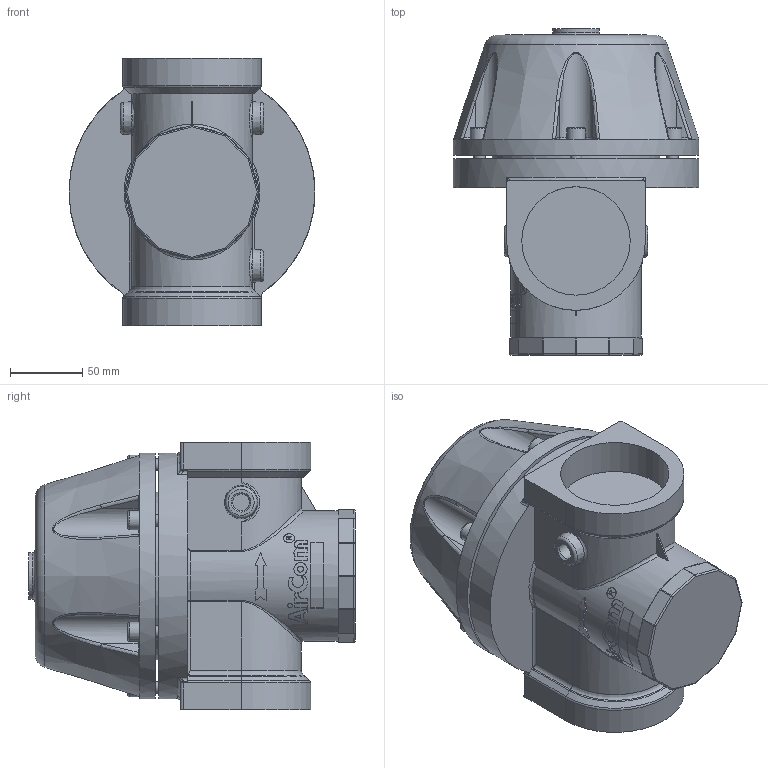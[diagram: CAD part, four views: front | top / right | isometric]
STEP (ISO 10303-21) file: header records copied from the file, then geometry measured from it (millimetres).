
FILE_DESCRIPTION(/* description */ (''),/* implementation_level */ '2;1');
FILE_NAME(/* name */ 'U:/AirCom-Produktdokumentation/Volumenstrombooster/R119-J/Zeichnungen/CAD-Aircom/3D/B-R119-20J.step',/* time_stamp */ '2021-05-25T10:31:23+02:00',/* author */ (''),/* organization */ (''),/* preprocessor_version */ 'ST-DEVELOPER v18.1',/* originating_system */ 'Autodesk Translation Framework v10.9.0.1377',/* authorisation */ '');
FILE_SCHEMA (('AUTOMOTIVE_DESIGN { 1 0 10303 214 3 1 1 }'));
Length unit declared in the file: millimetre
Products named in the file (5): B-R119-20J; B-R119-20x; ISO 4762 M8 x 12; ISO 4762 M8 x 25; ISO 4762 M8 x 20
Assembly tree (10 placements, depth 2):
  B-R119-20J
    B-R119-20x
    ISO 4762 M8 x 25  x2
    ISO 4762 M8 x 12
    ISO 4762 M8 x 20  x6
Bounding box: 170 x 226 x 185 mm (x, y, z)
Volume: 3084093.1 mm3; surface area: 223759.1 mm2
Topology: 12 solids, 13 shells, 517 faces, 1227 edges, 769 vertices
Faces by surface type: plane 226, cylinder 128, bspline 81, torus 37, cone 27, sphere 18
Full cylindrical faces by diameter (mm): 8 x9, 9 x12, 11.5 x4, 13 x9, 32 x1, 75 x2, 90 x1, 116 x1, 170 x2
Entity records: 33428 total; most frequent: CARTESIAN_POINT 23784, ORIENTED_EDGE 2005, DIRECTION 1875, EDGE_CURVE 1003, AXIS2_PLACEMENT_3D 715, VERTEX_POINT 625, EDGE_LOOP 475, LINE 445
